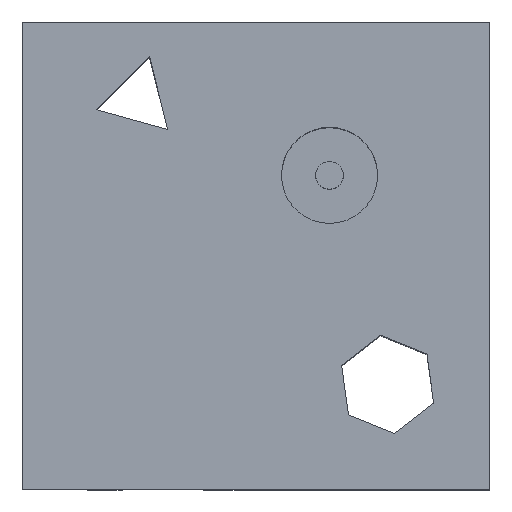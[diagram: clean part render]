
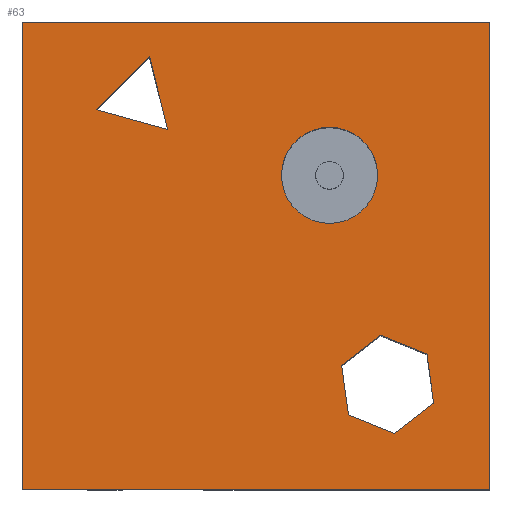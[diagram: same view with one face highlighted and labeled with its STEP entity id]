
A CAD part, top view. The second image highlights one B-rep face of the part: STEP entity #63.
In plain terms, the highlighted planar face has unit normal (0, 0, 1).
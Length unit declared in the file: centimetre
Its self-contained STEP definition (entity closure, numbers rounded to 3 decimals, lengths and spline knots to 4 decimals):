
#18 = CARTESIAN_POINT ( 'NONE',  ( 0., 1000., 1000. ) ) ;
#19 = EDGE_CURVE ( 'NONE', #516, #560, #1725, .T. ) ;
#24 = DIRECTION ( 'NONE',  ( 0., 0., 1. ) ) ;
#42 = EDGE_CURVE ( 'NONE', #329, #1533, #917, .T. ) ;
#63 = ADVANCED_FACE ( 'NONE', ( #1464, #763, #1432, #1420 ), #157, .T. ) ;
#70 = DIRECTION ( 'NONE',  ( 0.242, -0.97, 0. ) ) ;
#72 = ORIENTED_EDGE ( 'NONE', *, *, #572, .F. ) ;
#89 = EDGE_CURVE ( 'NONE', #560, #1666, #703, .T. ) ;
#110 = LINE ( 'NONE', #1233, #185 ) ;
#123 = DIRECTION ( 'NONE',  ( 0.137, -0.991, 0. ) ) ;
#130 = VECTOR ( 'NONE', #314, 100. ) ;
#138 = VERTEX_POINT ( 'NONE', #825 ) ;
#157 = PLANE ( 'NONE',  #661 ) ;
#160 = EDGE_CURVE ( 'NONE', #1150, #919, #1366, .T. ) ;
#163 = LINE ( 'NONE', #18, #696 ) ;
#184 = CARTESIAN_POINT ( 'NONE',  ( 767.2397, 329.7546, 1000. ) ) ;
#185 = VECTOR ( 'NONE', #391, 100. ) ;
#188 = CIRCLE ( 'NONE', #900, 102.8953 ) ;
#198 = DIRECTION ( 'NONE',  ( 0., -1., 0. ) ) ;
#203 = EDGE_CURVE ( 'NONE', #1666, #261, #1651, .T. ) ;
#205 = ORIENTED_EDGE ( 'NONE', *, *, #19, .T. ) ;
#238 = CARTESIAN_POINT ( 'NONE',  ( 1000., 1000., 1000. ) ) ;
#244 = DIRECTION ( 'NONE',  ( -0.137, 0.991, 0. ) ) ;
#260 = VERTEX_POINT ( 'NONE', #1703 ) ;
#261 = VERTEX_POINT ( 'NONE', #1004 ) ;
#282 = AXIS2_PLACEMENT_3D ( 'NONE', #383, #1509, #674 ) ;
#305 = EDGE_LOOP ( 'NONE', ( #803, #617, #1365, #1753 ) ) ;
#308 = LINE ( 'NONE', #1310, #130 ) ;
#314 = DIRECTION ( 'NONE',  ( -0.964, 0.267, 0. ) ) ;
#317 = EDGE_CURVE ( 'NONE', #1252, #260, #389, .T. ) ;
#329 = VERTEX_POINT ( 'NONE', #1763 ) ;
#343 = EDGE_CURVE ( 'NONE', #260, #1674, #1635, .T. ) ;
#358 = DIRECTION ( 'NONE',  ( 0., 1., 0. ) ) ;
#383 = CARTESIAN_POINT ( 'NONE',  ( 657.4013, 671.7826, 1000. ) ) ;
#389 = LINE ( 'NONE', #1608, #1155 ) ;
#391 = DIRECTION ( 'NONE',  ( -0.926, 0.377, 0. ) ) ;
#450 = CARTESIAN_POINT ( 'NONE',  ( 272.034, 925.9481, 1000. ) ) ;
#458 = LINE ( 'NONE', #1297, #874 ) ;
#477 = VERTEX_POINT ( 'NONE', #1373 ) ;
#481 = DIRECTION ( 'NONE',  ( -1., 0., 0. ) ) ;
#496 = ORIENTED_EDGE ( 'NONE', *, *, #867, .T. ) ;
#516 = VERTEX_POINT ( 'NONE', #1095 ) ;
#538 = DIRECTION ( 'NONE',  ( -0.79, -0.614, 0. ) ) ;
#560 = VERTEX_POINT ( 'NONE', #832 ) ;
#572 = EDGE_CURVE ( 'NONE', #138, #1298, #698, .T. ) ;
#575 = VECTOR ( 'NONE', #244, 100. ) ;
#607 = LINE ( 'NONE', #450, #990 ) ;
#617 = ORIENTED_EDGE ( 'NONE', *, *, #317, .T. ) ;
#661 = AXIS2_PLACEMENT_3D ( 'NONE', #735, #24, #1149 ) ;
#664 = ORIENTED_EDGE ( 'NONE', *, *, #160, .T. ) ;
#665 = DIRECTION ( 'NONE',  ( 1., 0., 0. ) ) ;
#674 = DIRECTION ( 'NONE',  ( 1., 0., 0. ) ) ;
#696 = VECTOR ( 'NONE', #198, 100. ) ;
#698 = CIRCLE ( 'NONE', #282, 102.8953 ) ;
#703 = LINE ( 'NONE', #967, #924 ) ;
#708 = CARTESIAN_POINT ( 'NONE',  ( 697.8199, 159.1418, 1000. ) ) ;
#733 = CARTESIAN_POINT ( 'NONE',  ( 0., 0., 1000. ) ) ;
#735 = CARTESIAN_POINT ( 'NONE',  ( 0., 0., 1000. ) ) ;
#749 = VECTOR ( 'NONE', #70, 100. ) ;
#756 = DIRECTION ( 'NONE',  ( 0.926, -0.377, 0. ) ) ;
#763 = FACE_BOUND ( 'NONE', #1044, .T. ) ;
#785 = ORIENTED_EDGE ( 'NONE', *, *, #89, .T. ) ;
#792 = EDGE_LOOP ( 'NONE', ( #1768, #1755, #982 ) ) ;
#794 = VERTEX_POINT ( 'NONE', #909 ) ;
#803 = ORIENTED_EDGE ( 'NONE', *, *, #1610, .T. ) ;
#825 = CARTESIAN_POINT ( 'NONE',  ( 554.5059, 671.7826, 1000. ) ) ;
#832 = CARTESIAN_POINT ( 'NONE',  ( 865.743, 289.6751, 1000. ) ) ;
#839 = CARTESIAN_POINT ( 'NONE',  ( 310.9875, 769.9576, 1000. ) ) ;
#867 = EDGE_CURVE ( 'NONE', #919, #516, #458, .T. ) ;
#874 = VECTOR ( 'NONE', #1449, 100. ) ;
#900 = AXIS2_PLACEMENT_3D ( 'NONE', #1606, #1761, #665 ) ;
#909 = CARTESIAN_POINT ( 'NONE',  ( 0., 1000., 1000. ) ) ;
#917 = LINE ( 'NONE', #1331, #749 ) ;
#919 = VERTEX_POINT ( 'NONE', #1094 ) ;
#924 = VECTOR ( 'NONE', #123, 100. ) ;
#967 = CARTESIAN_POINT ( 'NONE',  ( 865.743, 289.6751, 1000. ) ) ;
#982 = ORIENTED_EDGE ( 'NONE', *, *, #1711, .T. ) ;
#990 = VECTOR ( 'NONE', #1163, 100. ) ;
#1004 = CARTESIAN_POINT ( 'NONE',  ( 796.3233, 119.0623, 1000. ) ) ;
#1010 = CARTESIAN_POINT ( 'NONE',  ( 0., 1000., 1000. ) ) ;
#1019 = CARTESIAN_POINT ( 'NONE',  ( 1000., 1000., 1000. ) ) ;
#1026 = CARTESIAN_POINT ( 'NONE',  ( 880.2848, 184.3289, 1000. ) ) ;
#1044 = EDGE_LOOP ( 'NONE', ( #1161, #72 ) ) ;
#1069 = VECTOR ( 'NONE', #481, 100. ) ;
#1083 = DIRECTION ( 'NONE',  ( 1., 0., 0. ) ) ;
#1094 = CARTESIAN_POINT ( 'NONE',  ( 683.2781, 264.4879, 1000. ) ) ;
#1095 = CARTESIAN_POINT ( 'NONE',  ( 767.2397, 329.7546, 1000. ) ) ;
#1108 = CARTESIAN_POINT ( 'NONE',  ( 697.8199, 159.1418, 1000. ) ) ;
#1149 = DIRECTION ( 'NONE',  ( 1., 0., 0. ) ) ;
#1150 = VERTEX_POINT ( 'NONE', #708 ) ;
#1155 = VECTOR ( 'NONE', #1083, 100. ) ;
#1161 = ORIENTED_EDGE ( 'NONE', *, *, #1735, .F. ) ;
#1163 = DIRECTION ( 'NONE',  ( 0.707, 0.707, 0. ) ) ;
#1172 = LINE ( 'NONE', #1010, #1069 ) ;
#1222 = EDGE_LOOP ( 'NONE', ( #664, #496, #205, #785, #1679, #1640 ) ) ;
#1233 = CARTESIAN_POINT ( 'NONE',  ( 796.3233, 119.0623, 1000. ) ) ;
#1252 = VERTEX_POINT ( 'NONE', #733 ) ;
#1265 = EDGE_CURVE ( 'NONE', #1533, #477, #308, .T. ) ;
#1297 = CARTESIAN_POINT ( 'NONE',  ( 683.2781, 264.4879, 1000. ) ) ;
#1298 = VERTEX_POINT ( 'NONE', #1721 ) ;
#1310 = CARTESIAN_POINT ( 'NONE',  ( 158.3615, 812.2757, 1000. ) ) ;
#1313 = EDGE_CURVE ( 'NONE', #261, #1150, #110, .T. ) ;
#1328 = VECTOR ( 'NONE', #358, 100. ) ;
#1331 = CARTESIAN_POINT ( 'NONE',  ( 310.9875, 769.9576, 1000. ) ) ;
#1365 = ORIENTED_EDGE ( 'NONE', *, *, #343, .T. ) ;
#1366 = LINE ( 'NONE', #1108, #575 ) ;
#1373 = CARTESIAN_POINT ( 'NONE',  ( 158.3615, 812.2757, 1000. ) ) ;
#1383 = CARTESIAN_POINT ( 'NONE',  ( 880.2848, 184.3289, 1000. ) ) ;
#1420 = FACE_OUTER_BOUND ( 'NONE', #305, .T. ) ;
#1423 = VECTOR ( 'NONE', #538, 100. ) ;
#1432 = FACE_BOUND ( 'NONE', #1222, .T. ) ;
#1449 = DIRECTION ( 'NONE',  ( 0.79, 0.614, 0. ) ) ;
#1464 = FACE_BOUND ( 'NONE', #792, .T. ) ;
#1509 = DIRECTION ( 'NONE',  ( 0., 0., 1. ) ) ;
#1533 = VERTEX_POINT ( 'NONE', #839 ) ;
#1606 = CARTESIAN_POINT ( 'NONE',  ( 657.4013, 671.7826, 1000. ) ) ;
#1608 = CARTESIAN_POINT ( 'NONE',  ( 0., 0., 1000. ) ) ;
#1610 = EDGE_CURVE ( 'NONE', #794, #1252, #163, .T. ) ;
#1635 = LINE ( 'NONE', #238, #1328 ) ;
#1640 = ORIENTED_EDGE ( 'NONE', *, *, #1313, .T. ) ;
#1651 = LINE ( 'NONE', #1383, #1423 ) ;
#1666 = VERTEX_POINT ( 'NONE', #1026 ) ;
#1674 = VERTEX_POINT ( 'NONE', #1019 ) ;
#1679 = ORIENTED_EDGE ( 'NONE', *, *, #203, .T. ) ;
#1681 = EDGE_CURVE ( 'NONE', #1674, #794, #1172, .T. ) ;
#1703 = CARTESIAN_POINT ( 'NONE',  ( 1000., 0., 1000. ) ) ;
#1711 = EDGE_CURVE ( 'NONE', #477, #329, #607, .T. ) ;
#1715 = VECTOR ( 'NONE', #756, 100. ) ;
#1721 = CARTESIAN_POINT ( 'NONE',  ( 760.2966, 671.7826, 1000. ) ) ;
#1725 = LINE ( 'NONE', #184, #1715 ) ;
#1735 = EDGE_CURVE ( 'NONE', #1298, #138, #188, .T. ) ;
#1753 = ORIENTED_EDGE ( 'NONE', *, *, #1681, .T. ) ;
#1755 = ORIENTED_EDGE ( 'NONE', *, *, #1265, .T. ) ;
#1761 = DIRECTION ( 'NONE',  ( 0., 0., 1. ) ) ;
#1763 = CARTESIAN_POINT ( 'NONE',  ( 272.034, 925.9481, 1000. ) ) ;
#1768 = ORIENTED_EDGE ( 'NONE', *, *, #42, .T. ) ;
